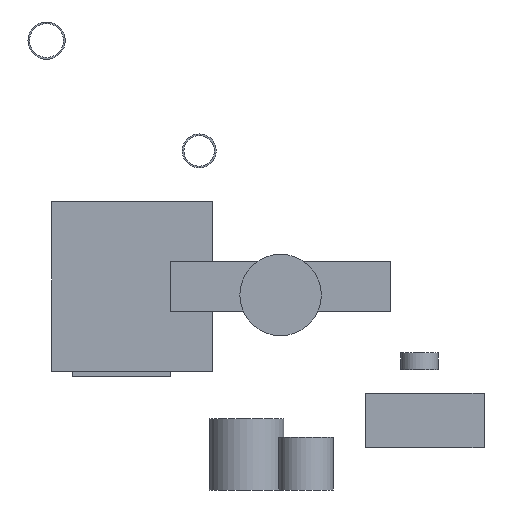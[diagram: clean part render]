
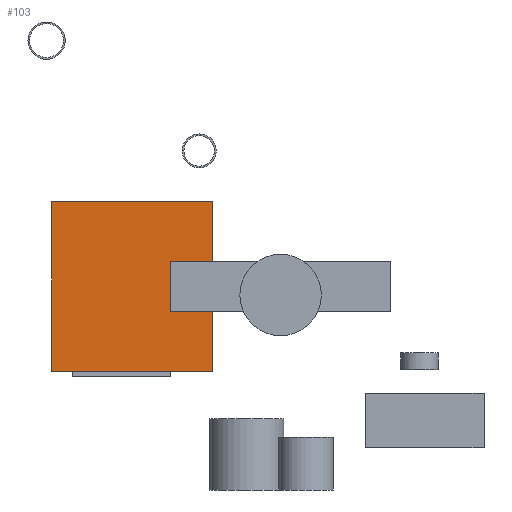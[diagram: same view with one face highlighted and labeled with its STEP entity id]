
A CAD part, left-side view. The second image highlights one B-rep face of the part: STEP entity #103.
In plain terms, the highlighted planar face has unit normal (-1, 0, 0).
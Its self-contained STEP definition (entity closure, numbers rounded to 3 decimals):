
#103 = ADVANCED_FACE('',(#104),#138,.F.);
#104 = FACE_BOUND('',#105,.F.);
#105 = EDGE_LOOP('',(#106,#116,#124,#132));
#106 = ORIENTED_EDGE('',*,*,#107,.F.);
#107 = EDGE_CURVE('',#108,#110,#112,.T.);
#108 = VERTEX_POINT('',#109);
#109 = CARTESIAN_POINT('',(5230.,400.,-950.));
#110 = VERTEX_POINT('',#111);
#111 = CARTESIAN_POINT('',(5230.,400.,50.));
#112 = LINE('',#113,#114);
#113 = CARTESIAN_POINT('',(5230.,400.,-950.));
#114 = VECTOR('',#115,1.);
#115 = DIRECTION('',(0.,0.,1.));
#116 = ORIENTED_EDGE('',*,*,#117,.T.);
#117 = EDGE_CURVE('',#108,#118,#120,.T.);
#118 = VERTEX_POINT('',#119);
#119 = CARTESIAN_POINT('',(5230.,1350.,-950.));
#120 = LINE('',#121,#122);
#121 = CARTESIAN_POINT('',(5230.,400.,-950.));
#122 = VECTOR('',#123,1.);
#123 = DIRECTION('',(-0.,1.,0.));
#124 = ORIENTED_EDGE('',*,*,#125,.T.);
#125 = EDGE_CURVE('',#118,#126,#128,.T.);
#126 = VERTEX_POINT('',#127);
#127 = CARTESIAN_POINT('',(5230.,1350.,50.));
#128 = LINE('',#129,#130);
#129 = CARTESIAN_POINT('',(5230.,1350.,-950.));
#130 = VECTOR('',#131,1.);
#131 = DIRECTION('',(0.,0.,1.));
#132 = ORIENTED_EDGE('',*,*,#133,.F.);
#133 = EDGE_CURVE('',#110,#126,#134,.T.);
#134 = LINE('',#135,#136);
#135 = CARTESIAN_POINT('',(5230.,400.,50.));
#136 = VECTOR('',#137,1.);
#137 = DIRECTION('',(-0.,1.,0.));
#138 = PLANE('',#139);
#139 = AXIS2_PLACEMENT_3D('',#140,#141,#142);
#140 = CARTESIAN_POINT('',(5230.,400.,-950.));
#141 = DIRECTION('',(1.,0.,-0.));
#142 = DIRECTION('',(0.,0.,1.));
